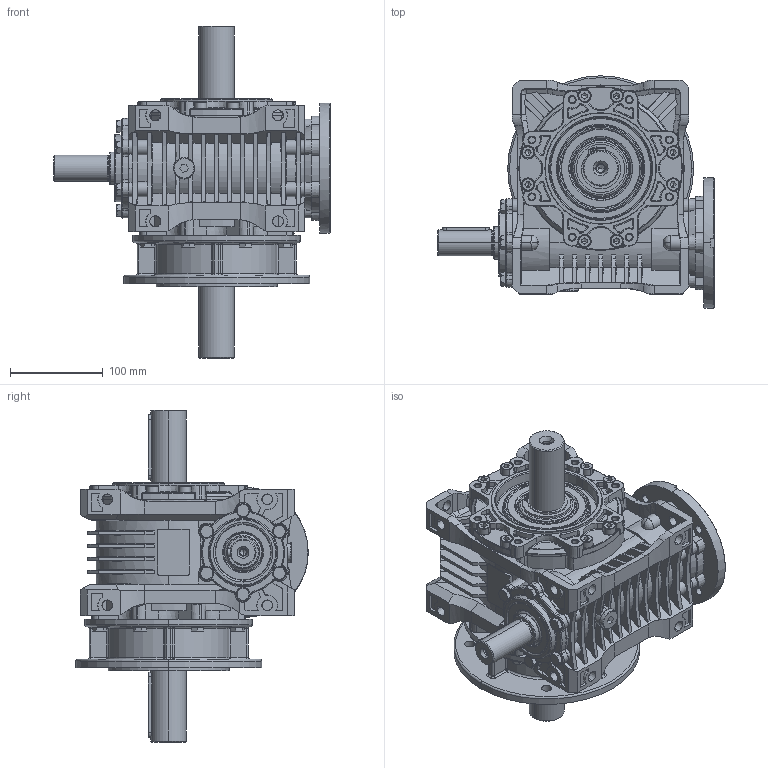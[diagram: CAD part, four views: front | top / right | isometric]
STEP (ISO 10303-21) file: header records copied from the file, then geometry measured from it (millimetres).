
FILE_DESCRIPTION (( 'STEP AP203' ), '1' );
FILE_NAME ('MR-80_140-24-WBS-K200_1-WD_1-3D.STEP', '2024-05-07T08:41:48', ( '' ), ( '' ), 'SwSTEP 2.0', 'SolidWorks 2022', '' );
FILE_SCHEMA (( 'CONFIG_CONTROL_DESIGN' ));
Length unit declared in the file: millimetre
Products named in the file (1): MR-80_140-24-WBS-K200_1-WD_1-3D
Bounding box: 297 x 250.22 x 357 mm (x, y, z)
Volume: 4999727.3 mm3; surface area: 602260.6 mm2
Topology: 1 solids, 66 shells, 3860 faces, 9846 edges, 6118 vertices
Faces by surface type: plane 1403, cone 1053, cylinder 685, torus 353, bspline 278, sphere 88
Entity records: 128410 total; most frequent: CARTESIAN_POINT 38332, ORIENTED_EDGE 19330, DIRECTION 18522, EDGE_CURVE 9665, AXIS2_PLACEMENT_3D 7269, VERTEX_POINT 6094, EDGE_LOOP 4131, VECTOR 3984
